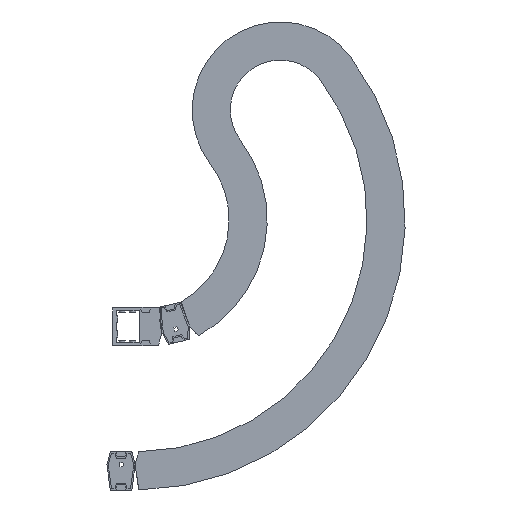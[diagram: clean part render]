
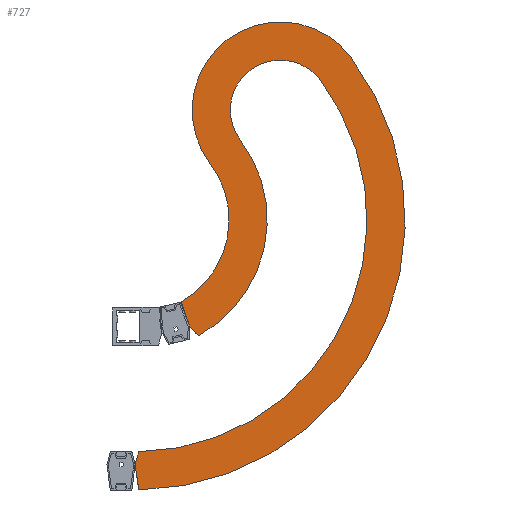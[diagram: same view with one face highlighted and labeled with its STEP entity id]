
A CAD part, front view. The second image highlights one B-rep face of the part: STEP entity #727.
In plain terms, the highlighted planar face has unit normal (0, -1, 0).
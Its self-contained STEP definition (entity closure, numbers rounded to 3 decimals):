
#727 = ADVANCED_FACE( '', ( #1627 ), #1628, .F. );
#1627 = FACE_OUTER_BOUND( '', #2733, .T. );
#1628 = PLANE( '', #2734 );
#2733 = EDGE_LOOP( '', ( #4893, #4894, #4895, #4896, #4897, #4898, #4899, #4900, #4901, #4902 ) );
#2734 = AXIS2_PLACEMENT_3D( '', #4903, #4904, #4905 );
#4893 = ORIENTED_EDGE( '', *, *, #7642, .F. );
#4894 = ORIENTED_EDGE( '', *, *, #7643, .F. );
#4895 = ORIENTED_EDGE( '', *, *, #7644, .F. );
#4896 = ORIENTED_EDGE( '', *, *, #7645, .T. );
#4897 = ORIENTED_EDGE( '', *, *, #7611, .F. );
#4898 = ORIENTED_EDGE( '', *, *, #7646, .F. );
#4899 = ORIENTED_EDGE( '', *, *, #7044, .F. );
#4900 = ORIENTED_EDGE( '', *, *, #7013, .T. );
#4901 = ORIENTED_EDGE( '', *, *, #7284, .T. );
#4902 = ORIENTED_EDGE( '', *, *, #7263, .F. );
#4903 = CARTESIAN_POINT( '', ( 0., -51.5, 0. ) );
#4904 = DIRECTION( '', ( 0., 1., 0. ) );
#4905 = DIRECTION( '', ( 0., 0., 1. ) );
#7013 = EDGE_CURVE( '', #8544, #8545, #8546, .T. );
#7044 = EDGE_CURVE( '', #8544, #8601, #8602, .T. );
#7263 = EDGE_CURVE( '', #8960, #8962, #8963, .T. );
#7284 = EDGE_CURVE( '', #8545, #8962, #8994, .T. );
#7611 = EDGE_CURVE( '', #9504, #9506, #9507, .T. );
#7642 = EDGE_CURVE( '', #9550, #8960, #9551, .T. );
#7643 = EDGE_CURVE( '', #9552, #9550, #9553, .T. );
#7644 = EDGE_CURVE( '', #9554, #9552, #9555, .T. );
#7645 = EDGE_CURVE( '', #9554, #9506, #9556, .T. );
#7646 = EDGE_CURVE( '', #8601, #9504, #9557, .T. );
#8544 = VERTEX_POINT( '', #10724 );
#8545 = VERTEX_POINT( '', #10725 );
#8546 = CIRCLE( '', #10726, 85. );
#8601 = VERTEX_POINT( '', #10806 );
#8602 = CIRCLE( '', #10807, 225. );
#8960 = VERTEX_POINT( '', #11309 );
#8962 = VERTEX_POINT( '', #11312 );
#8963 = LINE( '', #11313, #11314 );
#8994 = CIRCLE( '', #11361, 395. );
#9504 = VERTEX_POINT( '', #12094 );
#9506 = VERTEX_POINT( '', #12097 );
#9507 = LINE( '', #12098, #12099 );
#9550 = VERTEX_POINT( '', #12165 );
#9551 = LINE( '', #12166, #12167 );
#9552 = VERTEX_POINT( '', #12168 );
#9553 = CIRCLE( '', #12169, 460. );
#9554 = VERTEX_POINT( '', #12170 );
#9555 = CIRCLE( '', #12171, 150. );
#9556 = CIRCLE( '', #12172, 160. );
#9557 = LINE( '', #12173, #12174 );
#10724 = CARTESIAN_POINT( '', ( 179.359, -51.5, 135.85 ) );
#10725 = CARTESIAN_POINT( '', ( 314.875, -51.5, 238.492 ) );
#10726 = AXIS2_PLACEMENT_3D( '', #13244, #13245, #13246 );
#10806 = CARTESIAN_POINT( '', ( 107.844, -51.5, -197.471 ) );
#10807 = AXIS2_PLACEMENT_3D( '', #13275, #13276, #13277 );
#11309 = CARTESIAN_POINT( '', ( 0., -51.5, -417. ) );
#11312 = CARTESIAN_POINT( '', ( 6.1, -51.5, -394.953 ) );
#11313 = CARTESIAN_POINT( '', ( 0., -51.5, -417. ) );
#11314 = VECTOR( '', #13534, 1000. );
#11361 = AXIS2_PLACEMENT_3D( '', #13551, #13552, #13553 );
#12094 = CARTESIAN_POINT( '', ( 92.462, -51.5, -180.72 ) );
#12097 = CARTESIAN_POINT( '', ( 78.444, -51.5, -139.451 ) );
#12098 = CARTESIAN_POINT( '', ( 92.462, -51.5, -180.72 ) );
#12099 = VECTOR( '', #13910, 1000. );
#12165 = CARTESIAN_POINT( '', ( 6.293, -51.5, -459.957 ) );
#12166 = CARTESIAN_POINT( '', ( 6.293, -51.5, -459.957 ) );
#12167 = VECTOR( '', #13946, 1000. );
#12168 = CARTESIAN_POINT( '', ( 366.69, -51.5, 277.738 ) );
#12169 = AXIS2_PLACEMENT_3D( '', #13947, #13948, #13949 );
#12170 = CARTESIAN_POINT( '', ( 127.544, -51.5, 96.604 ) );
#12171 = AXIS2_PLACEMENT_3D( '', #13950, #13951, #13952 );
#12172 = AXIS2_PLACEMENT_3D( '', #13953, #13954, #13955 );
#12173 = CARTESIAN_POINT( '', ( 107.844, -51.5, -197.471 ) );
#12174 = VECTOR( '', #13956, 1000. );
#13244 = CARTESIAN_POINT( '', ( 247.117, -51.5, 187.171 ) );
#13245 = DIRECTION( '', ( 0., 1., 0. ) );
#13246 = DIRECTION( '', ( 1., 0., 0. ) );
#13275 = CARTESIAN_POINT( '', ( 0., -51.5, 0. ) );
#13276 = DIRECTION( '', ( 0., 1., 0. ) );
#13277 = DIRECTION( '', ( 1., 0., 0. ) );
#13534 = DIRECTION( '', ( 0.267, 0., 0.964 ) );
#13551 = CARTESIAN_POINT( '', ( 0., -51.5, 0. ) );
#13552 = DIRECTION( '', ( 0., 1., 0. ) );
#13553 = DIRECTION( '', ( 1., 0., 0. ) );
#13910 = DIRECTION( '', ( -0.322, 0., 0.947 ) );
#13946 = DIRECTION( '', ( -0.145, 0., 0.989 ) );
#13947 = CARTESIAN_POINT( '', ( 0., -51.5, 0. ) );
#13948 = DIRECTION( '', ( 0., 1., 0. ) );
#13949 = DIRECTION( '', ( 1., 0., 0. ) );
#13950 = CARTESIAN_POINT( '', ( 247.117, -51.5, 187.171 ) );
#13951 = DIRECTION( '', ( 0., 1., 0. ) );
#13952 = DIRECTION( '', ( 1., 0., 0. ) );
#13953 = CARTESIAN_POINT( '', ( 0., -51.5, 0. ) );
#13954 = DIRECTION( '', ( 0., 1., 0. ) );
#13955 = DIRECTION( '', ( 1., 0., 0. ) );
#13956 = DIRECTION( '', ( -0.676, 0., 0.737 ) );
